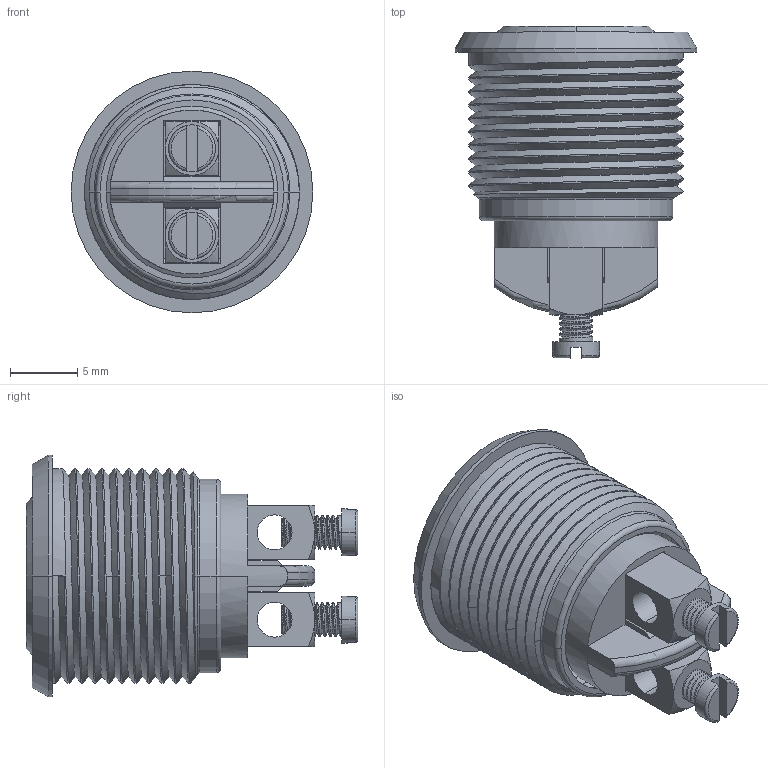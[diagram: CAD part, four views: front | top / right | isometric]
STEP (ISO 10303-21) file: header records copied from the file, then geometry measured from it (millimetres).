
FILE_DESCRIPTION((''),'2;1');
FILE_NAME('AV0730C940','2012-07-04T',('jlgachon'),(''),'PRO/ENGINEER BY PARAMETRIC TECHNOLOGY CORPORATION, 2011250','PRO/ENGINEER BY PARAMETRIC TECHNOLOGY CORPORATION, 2011250','');
FILE_SCHEMA(('CONFIG_CONTROL_DESIGN'));
Length unit declared in the file: millimetre
Products named in the file (1): AV0730C940
Bounding box: 18 x 24.7 x 18 mm (x, y, z)
Surface area: 2029.9 mm2 (no closed solid volume)
Topology: 0 solids, 7 shells, 172 faces, 508 edges, 345 vertices
Faces by surface type: cylinder 79, plane 41, bspline 22, cone 20, torus 10
Entity records: 16613 total; most frequent: CARTESIAN_POINT 12459, ORIENTED_EDGE 930, DIRECTION 670, EDGE_CURVE 508, VERTEX_POINT 345, AXIS2_PLACEMENT_3D 243, B_SPLINE_CURVE_WITH_KNOTS 231, EDGE_LOOP 185
